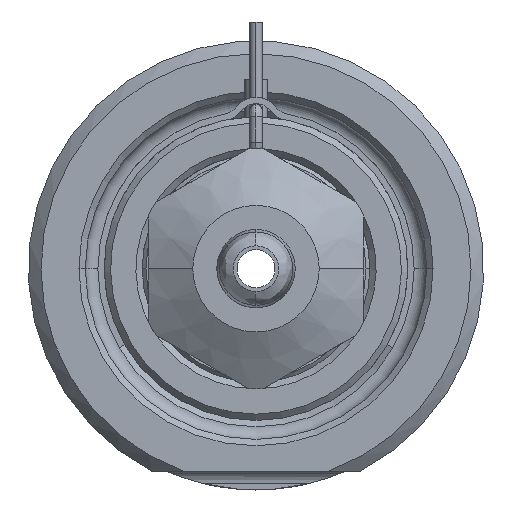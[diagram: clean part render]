
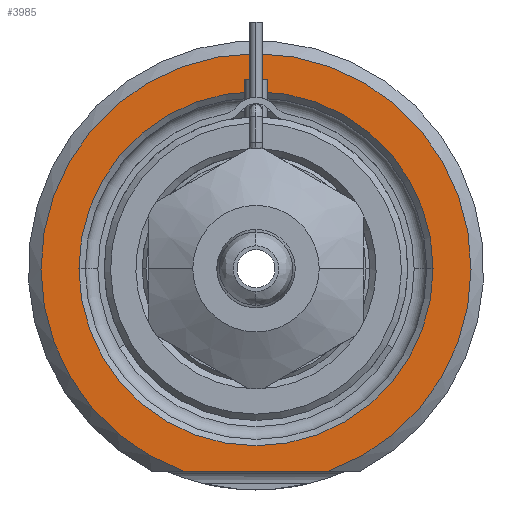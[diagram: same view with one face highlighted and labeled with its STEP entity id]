
A CAD part, front view. The second image highlights one B-rep face of the part: STEP entity #3985.
In plain terms, the highlighted planar face has unit normal (0, -1, 0).
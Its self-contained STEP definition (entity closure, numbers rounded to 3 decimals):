
#641=CARTESIAN_POINT('',(0.,0.,0.));
#642=DIRECTION('',(0.,-1.,0.));
#643=DIRECTION('',(0.338,0.,-0.941));
#644=AXIS2_PLACEMENT_3D('',#641,#642,#643);
#665=DIRECTION('',(1.,0.,0.));
#666=VECTOR('',#665,11.489);
#667=CARTESIAN_POINT('',(-5.745,0.,-16.));
#668=LINE('',#667,#666);
#669=CARTESIAN_POINT('',(0.,0.,0.));
#670=DIRECTION('',(0.,1.,0.));
#671=DIRECTION('',(-1.,0.,0.));
#672=AXIS2_PLACEMENT_3D('',#669,#670,#671);
#674=CARTESIAN_POINT('',(0.,0.,0.));
#675=DIRECTION('',(0.,1.,0.));
#676=DIRECTION('',(1.,0.,0.));
#677=AXIS2_PLACEMENT_3D('',#674,#675,#676);
#2480=CARTESIAN_POINT('',(-14.,0.,0.));
#2481=CARTESIAN_POINT('',(14.,0.,0.));
#2482=VERTEX_POINT('',#2480);
#2483=VERTEX_POINT('',#2481);
#2520=CARTESIAN_POINT('',(-5.745,0.,-16.));
#2521=CARTESIAN_POINT('',(5.745,0.,-16.));
#2522=VERTEX_POINT('',#2520);
#2523=VERTEX_POINT('',#2521);
#3970=CARTESIAN_POINT('',(0.,0.,0.));
#3971=DIRECTION('',(0.,-1.,0.));
#3972=DIRECTION('',(1.,0.,0.));
#3973=AXIS2_PLACEMENT_3D('',#3970,#3971,#3972);
#3974=PLANE('',#3973);
#3975=ORIENTED_EDGE('',*,*,#3902,.F.);
#3976=ORIENTED_EDGE('',*,*,#3962,.F.);
#3977=EDGE_LOOP('',(#3975,#3976));
#3978=FACE_OUTER_BOUND('',#3977,.F.);
#3980=ORIENTED_EDGE('',*,*,#3979,.F.);
#3982=ORIENTED_EDGE('',*,*,#3981,.F.);
#3983=EDGE_LOOP('',(#3980,#3982));
#3984=FACE_BOUND('',#3983,.F.);
#3985=ADVANCED_FACE('',(#3978,#3984),#3974,.T.);
#645=CIRCLE('',#644,17.);
#673=CIRCLE('',#672,14.);
#678=CIRCLE('',#677,14.);
#3902=EDGE_CURVE('',#2522,#2523,#668,.T.);
#3962=EDGE_CURVE('',#2523,#2522,#645,.T.);
#3979=EDGE_CURVE('',#2482,#2483,#673,.T.);
#3981=EDGE_CURVE('',#2483,#2482,#678,.T.);
